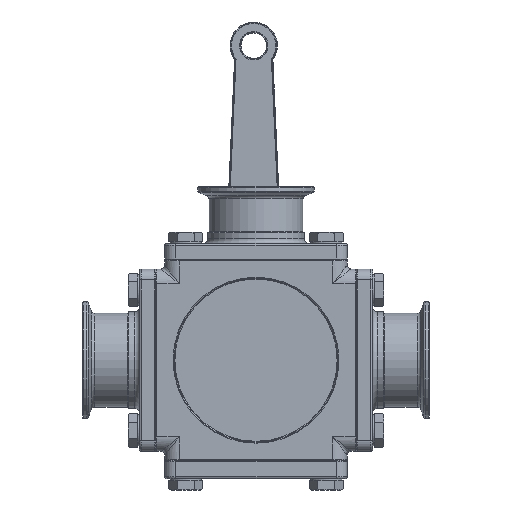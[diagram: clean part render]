
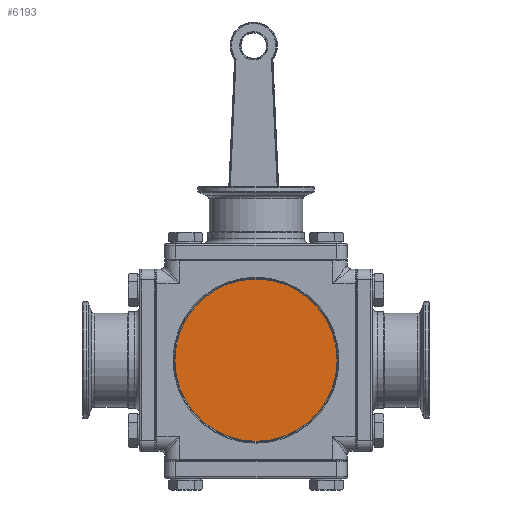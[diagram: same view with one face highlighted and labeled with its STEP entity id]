
A CAD part, front view. The second image highlights one B-rep face of the part: STEP entity #6193.
In plain terms, the highlighted planar face has unit normal (0, -1, 0).
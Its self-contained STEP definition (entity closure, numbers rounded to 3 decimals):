
#1214 = EDGE_CURVE ( 'NONE', #29258, #32139, #24401, .T. ) ;
#1774 = PLANE ( 'NONE',  #26896 ) ;
#3316 = CARTESIAN_POINT ( 'NONE',  ( 0., -48.5, -44.5 ) ) ;
#3773 = CIRCLE ( 'NONE', #22676, 44.5 ) ;
#4038 = ORIENTED_EDGE ( 'NONE', *, *, #32506, .T. ) ;
#6187 = ORIENTED_EDGE ( 'NONE', *, *, #1214, .T. ) ;
#6193 = ADVANCED_FACE ( 'NONE', ( #19244 ), #1774, .T. ) ;
#7223 = CARTESIAN_POINT ( 'NONE',  ( 0., -48.5, 0. ) ) ;
#10682 = EDGE_LOOP ( 'NONE', ( #4038, #6187 ) ) ;
#12667 = DIRECTION ( 'NONE',  ( 0., -1., 0. ) ) ;
#19244 = FACE_OUTER_BOUND ( 'NONE', #10682, .T. ) ;
#20006 = CARTESIAN_POINT ( 'NONE',  ( 0., -48.5, 0. ) ) ;
#22676 = AXIS2_PLACEMENT_3D ( 'NONE', #28120, #12667, #22858 ) ;
#22858 = DIRECTION ( 'NONE',  ( 0., 0., -1. ) ) ;
#24401 = CIRCLE ( 'NONE', #29602, 44.5 ) ;
#25097 = DIRECTION ( 'NONE',  ( 0., -1., 0. ) ) ;
#26896 = AXIS2_PLACEMENT_3D ( 'NONE', #7223, #32928, #30018 ) ;
#28120 = CARTESIAN_POINT ( 'NONE',  ( 0., -48.5, 0. ) ) ;
#29092 = CARTESIAN_POINT ( 'NONE',  ( 0., -48.5, 44.5 ) ) ;
#29258 = VERTEX_POINT ( 'NONE', #29092 ) ;
#29602 = AXIS2_PLACEMENT_3D ( 'NONE', #20006, #25097, #30250 ) ;
#30018 = DIRECTION ( 'NONE',  ( 0., 0., -1. ) ) ;
#30250 = DIRECTION ( 'NONE',  ( 0., 0., -1. ) ) ;
#32139 = VERTEX_POINT ( 'NONE', #3316 ) ;
#32506 = EDGE_CURVE ( 'NONE', #32139, #29258, #3773, .T. ) ;
#32928 = DIRECTION ( 'NONE',  ( 0., -1., 0. ) ) ;
